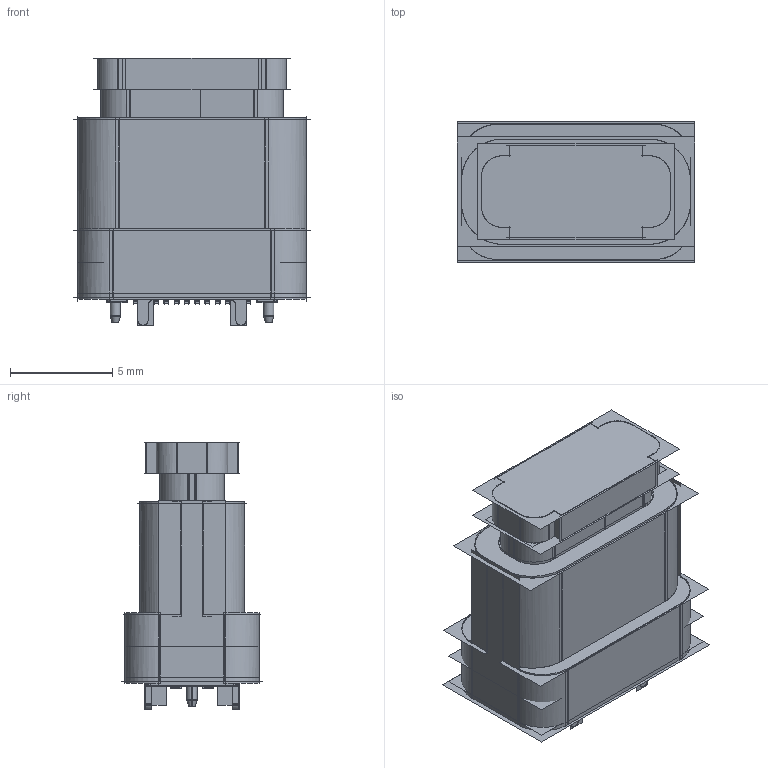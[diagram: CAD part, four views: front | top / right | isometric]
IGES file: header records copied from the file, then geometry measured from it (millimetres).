
Start section:  PTC IGES file: zd_24pin_licha_fs1050-.igs
Global section: file name: zd_24pin_licha_fs1050-.igs; native system: Creo Parametric by PTC Inc.; preprocessor: 2019010; author: connector; organization: Unknown; date: 20250408.084218; units: millimetre
Bounding box: 11.65 x 6.86 x 13.12 mm (x, y, z)
Surface area: 20323.6 mm2 (no closed solid volume)
Topology: 0 solids, 0 shells, 2501 faces, 19138 edges, 19138 vertices
Faces by surface type: bspline 2501
